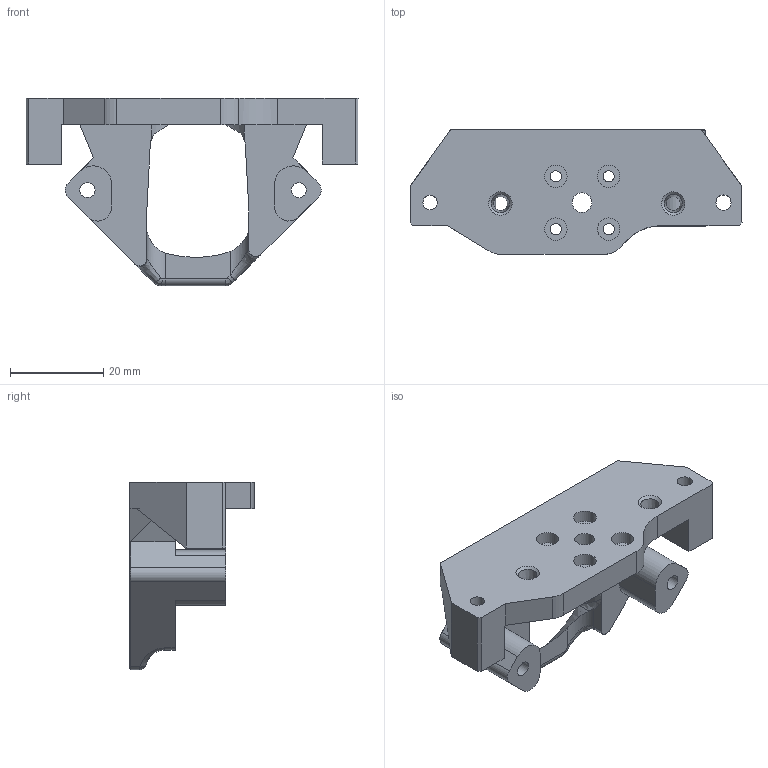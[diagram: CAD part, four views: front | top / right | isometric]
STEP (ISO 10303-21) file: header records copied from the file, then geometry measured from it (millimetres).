
FILE_DESCRIPTION(/* description */ (''),/* implementation_level */ '2;1');
FILE_NAME(/* name */ 'C:/Users/Martin/Documents/icarus-2.1/icarus-2-current-step-files/2-mounts/mount-orbiter-2.0-volcano-dragon-2.1.step',/* time_stamp */ '2022-08-22T19:17:59+02:00',/* author */ (''),/* organization */ (''),/* preprocessor_version */ 'ST-DEVELOPER v19',/* originating_system */ 'Autodesk Translation Framework v11.7.0.108',/* authorisation */ '');
FILE_SCHEMA (('AUTOMOTIVE_DESIGN { 1 0 10303 214 3 1 1 }'));
Length unit declared in the file: millimetre
Products named in the file (1): mount-rapido
Bounding box: 71.07 x 26.66 x 40.18 mm (x, y, z)
Volume: 16348 mm3; surface area: 9079.6 mm2
Topology: 1 solids, 1 shells, 118 faces, 313 edges, 200 vertices
Faces by surface type: plane 46, cylinder 33, bspline 30, cone 8, torus 1
Full cylindrical faces by diameter (mm): 2.4 x4, 3.1 x1, 3.25 x5, 4.2 x1, 4.8 x4
Entity records: 5007 total; most frequent: CARTESIAN_POINT 2153, ORIENTED_EDGE 626, DIRECTION 502, EDGE_CURVE 313, VERTEX_POINT 200, LINE 168, VECTOR 168, AXIS2_PLACEMENT_3D 167
